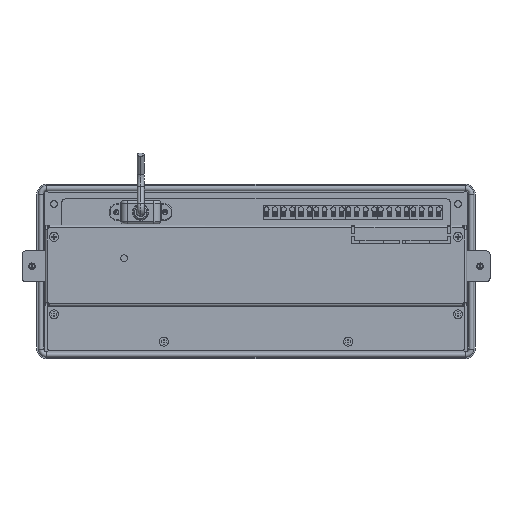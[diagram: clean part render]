
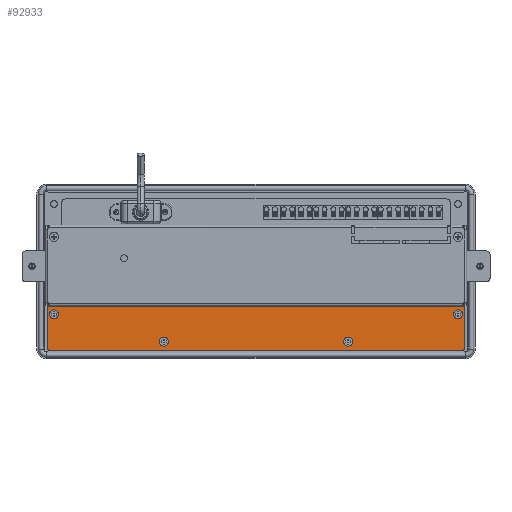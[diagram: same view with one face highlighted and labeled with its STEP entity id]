
A CAD part, front view. The second image highlights one B-rep face of the part: STEP entity #92933.
In plain terms, the highlighted planar face has unit normal (0, -1, 0) as drawn and (0, 1, 0) by its records, which use the part's own axes.
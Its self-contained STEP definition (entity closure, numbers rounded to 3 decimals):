
#90233=CARTESIAN_POINT('',(-123.,-26.,-29.585));
#90234=DIRECTION('',(0.,-1.,0.));
#90235=DIRECTION('',(0.,0.,1.));
#90236=AXIS2_PLACEMENT_3D('',#90233,#90234,#90235);
#90238=CARTESIAN_POINT('',(-123.,-26.,-29.585));
#90239=DIRECTION('',(0.,-1.,0.));
#90240=DIRECTION('',(0.,0.,-1.));
#90241=AXIS2_PLACEMENT_3D('',#90238,#90239,#90240);
#90243=CARTESIAN_POINT('',(-56.4,-26.,-46.125));
#90244=DIRECTION('',(0.,-1.,0.));
#90245=DIRECTION('',(0.,0.,1.));
#90246=AXIS2_PLACEMENT_3D('',#90243,#90244,#90245);
#90248=CARTESIAN_POINT('',(-56.4,-26.,-46.125));
#90249=DIRECTION('',(0.,-1.,0.));
#90250=DIRECTION('',(0.,0.,-1.));
#90251=AXIS2_PLACEMENT_3D('',#90248,#90249,#90250);
#90253=CARTESIAN_POINT('',(55.4,-26.,-46.125));
#90254=DIRECTION('',(0.,-1.,0.));
#90255=DIRECTION('',(0.,0.,1.));
#90256=AXIS2_PLACEMENT_3D('',#90253,#90254,#90255);
#90258=CARTESIAN_POINT('',(55.4,-26.,-46.125));
#90259=DIRECTION('',(0.,-1.,0.));
#90260=DIRECTION('',(0.,0.,-1.));
#90261=AXIS2_PLACEMENT_3D('',#90258,#90259,#90260);
#90263=CARTESIAN_POINT('',(-125.55,-26.,-49.925));
#90264=DIRECTION('',(0.,1.,0.));
#90265=DIRECTION('',(0.,0.,-1.));
#90266=AXIS2_PLACEMENT_3D('',#90263,#90264,#90265);
#90268=DIRECTION('',(-1.,0.,0.));
#90269=VECTOR('',#90268,250.1);
#90270=CARTESIAN_POINT('',(124.55,-26.,-51.425));
#90271=LINE('',#90270,#90269);
#90272=CARTESIAN_POINT('',(124.55,-26.,-49.925));
#90273=DIRECTION('',(0.,1.,0.));
#90274=DIRECTION('',(1.,0.,0.));
#90275=AXIS2_PLACEMENT_3D('',#90272,#90273,#90274);
#90277=DIRECTION('',(0.,0.,-1.));
#90278=VECTOR('',#90277,25.3);
#90279=CARTESIAN_POINT('',(126.05,-26.,-24.625));
#90280=LINE('',#90279,#90278);
#90281=DIRECTION('',(0.,0.,1.));
#90282=VECTOR('',#90281,25.3);
#90283=CARTESIAN_POINT('',(-127.05,-26.,-49.925));
#90284=LINE('',#90283,#90282);
#90285=CARTESIAN_POINT('',(122.,-26.,-29.625));
#90286=DIRECTION('',(0.,-1.,0.));
#90287=DIRECTION('',(0.,0.,-1.));
#90288=AXIS2_PLACEMENT_3D('',#90285,#90286,#90287);
#90290=CARTESIAN_POINT('',(122.,-26.,-29.625));
#90291=DIRECTION('',(0.,-1.,0.));
#90292=DIRECTION('',(0.,0.,1.));
#90293=AXIS2_PLACEMENT_3D('',#90290,#90291,#90292);
#90335=DIRECTION('',(1.,0.,0.));
#90336=VECTOR('',#90335,253.1);
#90337=CARTESIAN_POINT('',(-127.05,-26.,-24.625));
#90338=LINE('',#90337,#90336);
#90581=CARTESIAN_POINT('',(-127.05,-26.,-24.625));
#90582=CARTESIAN_POINT('',(126.05,-26.,-24.625));
#90583=VERTEX_POINT('',#90581);
#90584=VERTEX_POINT('',#90582);
#90809=CARTESIAN_POINT('',(-125.55,-26.,-51.425));
#90810=VERTEX_POINT('',#90809);
#90811=CARTESIAN_POINT('',(-127.05,-26.,-49.925));
#90812=VERTEX_POINT('',#90811);
#90817=CARTESIAN_POINT('',(126.05,-26.,-49.925));
#90818=VERTEX_POINT('',#90817);
#90819=CARTESIAN_POINT('',(124.55,-26.,-51.425));
#90820=VERTEX_POINT('',#90819);
#90869=CARTESIAN_POINT('',(-123.,-26.,-26.835));
#90870=CARTESIAN_POINT('',(-123.,-26.,-32.335));
#90871=VERTEX_POINT('',#90869);
#90872=VERTEX_POINT('',#90870);
#90885=CARTESIAN_POINT('',(-56.4,-26.,-43.375));
#90886=CARTESIAN_POINT('',(-56.4,-26.,-48.875));
#90887=VERTEX_POINT('',#90885);
#90888=VERTEX_POINT('',#90886);
#90893=CARTESIAN_POINT('',(55.4,-26.,-43.375));
#90894=CARTESIAN_POINT('',(55.4,-26.,-48.875));
#90895=VERTEX_POINT('',#90893);
#90896=VERTEX_POINT('',#90894);
#90901=CARTESIAN_POINT('',(122.,-26.,-32.375));
#90902=CARTESIAN_POINT('',(122.,-26.,-26.875));
#90903=VERTEX_POINT('',#90901);
#90904=VERTEX_POINT('',#90902);
#92891=CARTESIAN_POINT('',(126.05,-26.,-23.425));
#92892=DIRECTION('',(0.,1.,0.));
#92893=DIRECTION('',(1.,0.,0.));
#92894=AXIS2_PLACEMENT_3D('',#92891,#92892,#92893);
#92895=PLANE('',#92894);
#92897=ORIENTED_EDGE('',*,*,#92896,.F.);
#92899=ORIENTED_EDGE('',*,*,#92898,.F.);
#92901=ORIENTED_EDGE('',*,*,#92900,.F.);
#92903=ORIENTED_EDGE('',*,*,#92902,.F.);
#92905=ORIENTED_EDGE('',*,*,#92904,.F.);
#92907=ORIENTED_EDGE('',*,*,#92906,.F.);
#92908=EDGE_LOOP('',(#92897,#92899,#92901,#92903,#92905,#92907));
#92909=FACE_OUTER_BOUND('',#92908,.F.);
#92911=ORIENTED_EDGE('',*,*,#92910,.F.);
#92913=ORIENTED_EDGE('',*,*,#92912,.F.);
#92914=EDGE_LOOP('',(#92911,#92913));
#92915=FACE_BOUND('',#92914,.F.);
#92917=ORIENTED_EDGE('',*,*,#92916,.F.);
#92919=ORIENTED_EDGE('',*,*,#92918,.F.);
#92920=EDGE_LOOP('',(#92917,#92919));
#92921=FACE_BOUND('',#92920,.F.);
#92922=ORIENTED_EDGE('',*,*,#92881,.F.);
#92924=ORIENTED_EDGE('',*,*,#92923,.F.);
#92925=EDGE_LOOP('',(#92922,#92924));
#92926=FACE_BOUND('',#92925,.F.);
#92928=ORIENTED_EDGE('',*,*,#92927,.F.);
#92930=ORIENTED_EDGE('',*,*,#92929,.F.);
#92931=EDGE_LOOP('',(#92928,#92930));
#92932=FACE_BOUND('',#92931,.F.);
#90237=CIRCLE('',#90236,2.75);
#90242=CIRCLE('',#90241,2.75);
#90247=CIRCLE('',#90246,2.75);
#90252=CIRCLE('',#90251,2.75);
#90257=CIRCLE('',#90256,2.75);
#90262=CIRCLE('',#90261,2.75);
#90267=CIRCLE('',#90266,1.5);
#90276=CIRCLE('',#90275,1.5);
#90289=CIRCLE('',#90288,2.75);
#90294=CIRCLE('',#90293,2.75);
#92881=EDGE_CURVE('',#90871,#90872,#90237,.T.);
#92896=EDGE_CURVE('',#90810,#90812,#90267,.T.);
#92898=EDGE_CURVE('',#90820,#90810,#90271,.T.);
#92900=EDGE_CURVE('',#90818,#90820,#90276,.T.);
#92902=EDGE_CURVE('',#90584,#90818,#90280,.T.);
#92904=EDGE_CURVE('',#90583,#90584,#90338,.T.);
#92906=EDGE_CURVE('',#90812,#90583,#90284,.T.);
#92910=EDGE_CURVE('',#90887,#90888,#90247,.T.);
#92912=EDGE_CURVE('',#90888,#90887,#90252,.T.);
#92916=EDGE_CURVE('',#90895,#90896,#90257,.T.);
#92918=EDGE_CURVE('',#90896,#90895,#90262,.T.);
#92923=EDGE_CURVE('',#90872,#90871,#90242,.T.);
#92927=EDGE_CURVE('',#90903,#90904,#90289,.T.);
#92929=EDGE_CURVE('',#90904,#90903,#90294,.T.);
#92933=ADVANCED_FACE('',(#92909,#92915,#92921,#92926,#92932),#92895,.T.);
